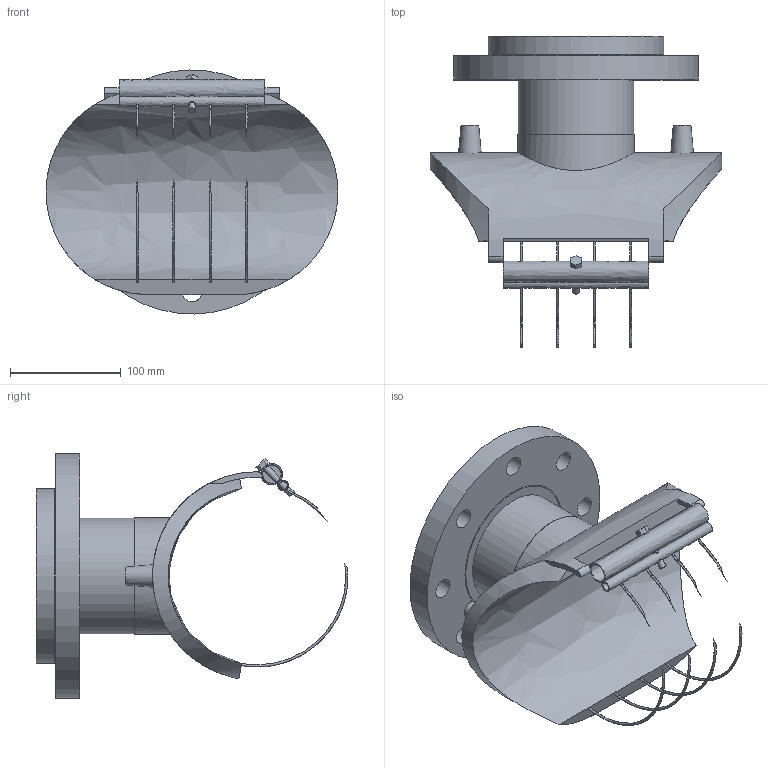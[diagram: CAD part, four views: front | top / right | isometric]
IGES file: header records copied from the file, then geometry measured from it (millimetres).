
Global section: file name: 4959X4160100T; native system: Autodesk Inventor 2019; preprocessor: unknown; author: KIM; date: 20220428.113709; units: millimetre
Bounding box: 263 x 280.95 x 219.95 mm (x, y, z)
Volume: 1859846.1 mm3; surface area: 333558.9 mm2
Topology: 2 solids, 2 shells, 78 faces, 239 edges, 166 vertices
Faces by surface type: bspline 78
